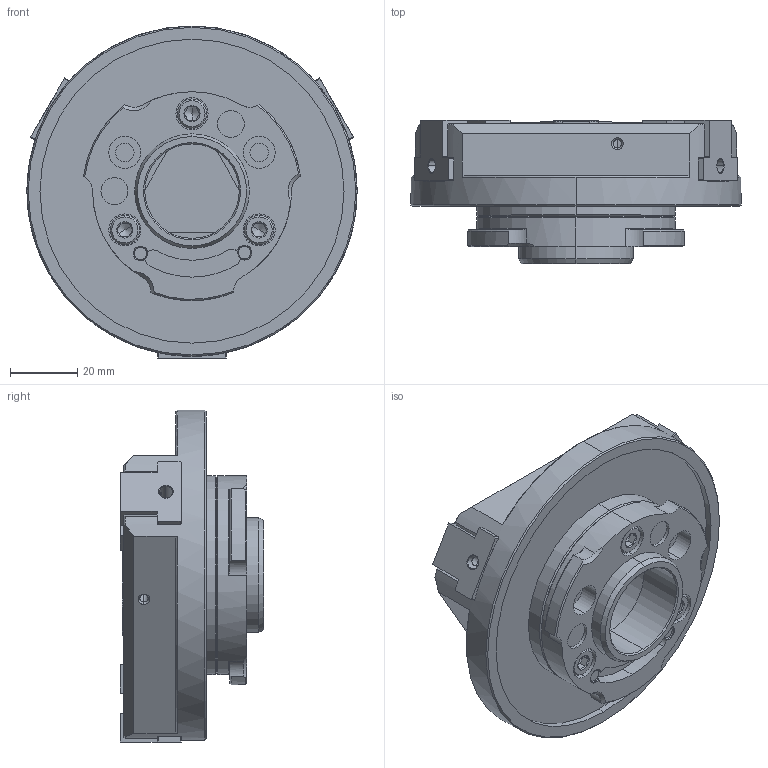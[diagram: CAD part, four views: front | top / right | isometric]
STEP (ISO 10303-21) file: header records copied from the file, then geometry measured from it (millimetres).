
FILE_DESCRIPTION (( 'STEP AP214' ), '1' );
FILE_NAME ('HP-QG30810-Assy-61G841489-20241129-UC.STEP', '2024-11-29T00:51:11', ( '' ), ( '' ), 'SwSTEP 2.0', 'SolidWorks 2022', '' );
FILE_SCHEMA (( 'AUTOMOTIVE_DESIGN' ));
Length unit declared in the file: millimetre
Products named in the file (8): HP-QG30810-Assy-61G841489-20241129-UC; COVER^HP-QG30810; BODY^HP-QG30810; BOLT^HP-QG30810; HEIKOU PIN^HP-QG30810; MASTER JAW^HP-QG30810; RING^HP-QG30810; S-SARA^HP-QG30810
Assembly tree (14 placements, depth 2):
  HP-QG30810-Assy-61G841489-20241129-UC
    BODY^HP-QG30810
    MASTER JAW^HP-QG30810  x3
    RING^HP-QG30810
    COVER^HP-QG30810
    BOLT^HP-QG30810  x3
    S-SARA^HP-QG30810  x3
    HEIKOU PIN^HP-QG30810  x2
Bounding box: 98 x 42.5 x 98.5 mm (x, y, z)
Volume: 146981.1 mm3; surface area: 53920.2 mm2
Topology: 14 solids, 14 shells, 1682 faces, 4624 edges, 3021 vertices
Faces by surface type: plane 1143, cylinder 207, bspline 162, cone 161, torus 9
Entity records: 54153 total; most frequent: CARTESIAN_POINT 17148, ORIENTED_EDGE 8148, DIRECTION 6629, EDGE_CURVE 4074, VECTOR 3233, LINE 3233, VERTEX_POINT 2693, AXIS2_PLACEMENT_3D 1698
